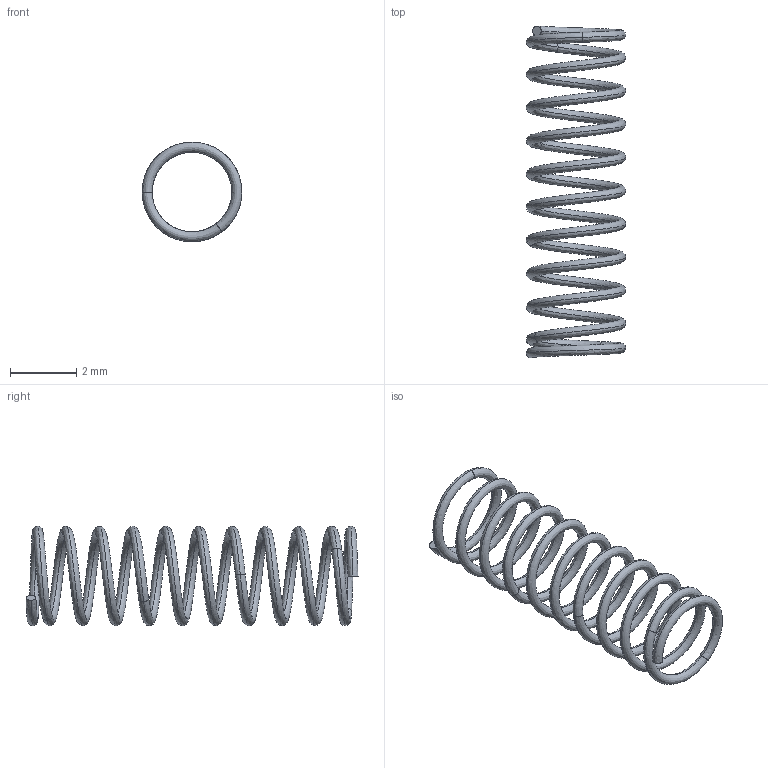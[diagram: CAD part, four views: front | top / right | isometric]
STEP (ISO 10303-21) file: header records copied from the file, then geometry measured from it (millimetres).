
FILE_DESCRIPTION((''),'2;1');
FILE_NAME('Y_JG_WJ_A00221-01','2024-02-22T09:36:40',('qinghui.yi'),(''),'CREO PARAMETRIC BY PTC INC, 2019164','CREO PARAMETRIC BY PTC INC, 2019164','');
FILE_SCHEMA(('CONFIG_CONTROL_DESIGN','SHAPE_APPEARANCE_LAYERS_GROUPS'));
Length unit declared in the file: millimetre
Products named in the file (1): Y_JG_WJ_A00221-01
Bounding box: 3 x 10 x 3 mm (x, y, z)
Volume: 6.4 mm3; surface area: 86.4 mm2
Topology: 1 solids, 1 shells, 16 faces, 33 edges, 22 vertices
Faces by surface type: bspline 14, plane 2
Entity records: 3308 total; most frequent: CARTESIAN_POINT 2699, COLOUR_RGB 312, ORIENTED_EDGE 60, B_SPLINE_CURVE_WITH_KNOTS 30, EDGE_CURVE 30, VERTEX_POINT 16, EDGE_LOOP 16, FACE_OUTER_BOUND 16
